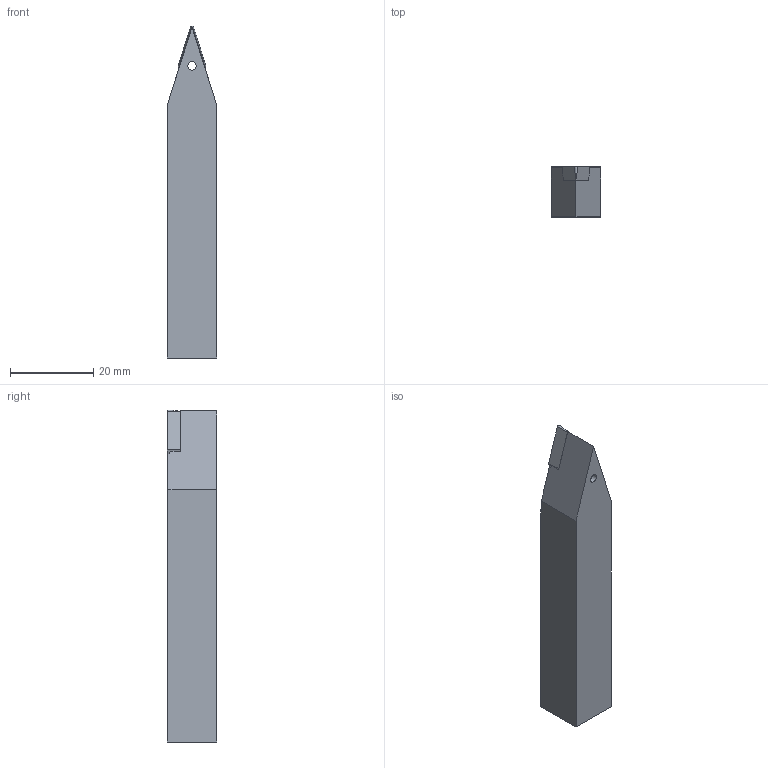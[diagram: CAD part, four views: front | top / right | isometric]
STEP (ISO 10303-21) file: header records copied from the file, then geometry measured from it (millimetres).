
FILE_DESCRIPTION(/* description */ (''),/* implementation_level */ '2;1');
FILE_NAME(/* name */ 'SVVBN1212-F11-HAAS.stp',/* time_stamp */ '2021-09-29T10:57:44+09:00',/* author */ (''),/* organization */ (''),/* preprocessor_version */ 'ST-DEVELOPER v16.7',/* originating_system */ 'SIEMENS PLM Software NX 1946',/* authorisation */ '');
FILE_SCHEMA (('AP203_CONFIGURATION_CONTROLLED_3D_DESIGN_OF_MECHANICAL_PARTS_AND_ASSEMBLIES_MIM_LF { 1 0 10303 403 2 1 2}'));
Length unit declared in the file: millimetre
Products named in the file (1): user51A0C9E069b3
Bounding box: 12 x 12 x 80 mm (x, y, z)
Volume: 10019.9 mm3; surface area: 4089.2 mm2
Topology: 2 solids, 2 shells, 32 faces, 83 edges, 55 vertices
Faces by surface type: plane 26, cone 3, cylinder 3
Full cylindrical faces by diameter (mm): 2.05 x1, 4 x1
Entity records: 1055 total; most frequent: CARTESIAN_POINT 168, ORIENTED_EDGE 160, DIRECTION 157, EDGE_CURVE 80, LINE 69, VECTOR 69, VERTEX_POINT 55, AXIS2_PLACEMENT_3D 44
